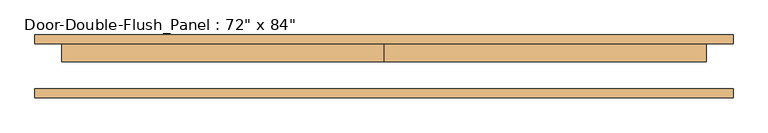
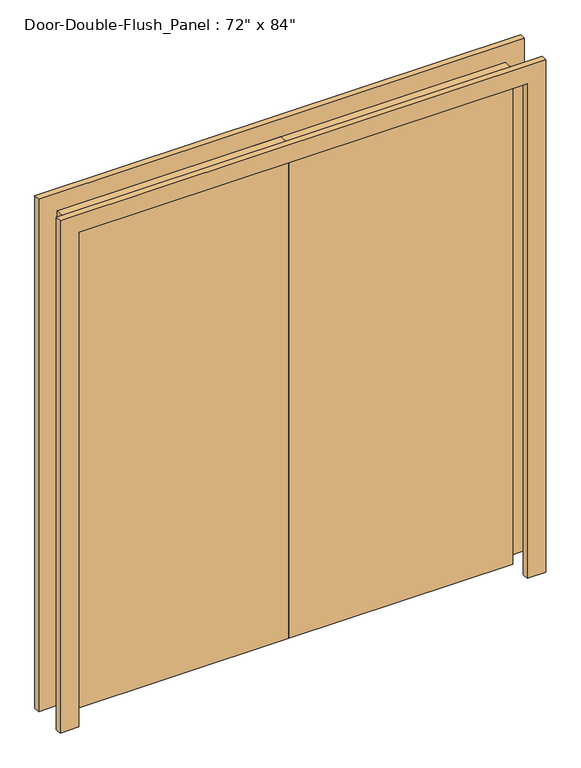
"""IFC4 building model written with IfcOpenShell, lengths in millimetres: door geometry."""

from ifc_helpers import new_model, si_unit, frame, origin, origin_with_axes, place, context, project, spatial, polyline, outline, extrude, source, transform, mapped, element, save


def door_25d5a9ee(model_context):
    return source(origin(), model_context, "Body", "SweptSolid", [
        extrude(outline(polyline([(2133.6, -914.4), (2133.6, 914.4), (0.0, 914.4), (0.0, 990.6), (2209.8, 990.6), (2209.8, -990.6), (0.0, -990.6), (0.0, -914.4), (2133.6, -914.4)])), frame((0.0, -88.9, 0.0), z_axis=(0.0, 1.0, 0.0), x_axis=(0.0, 0.0, 1.0)), (0.0, 0.0, 1.0), 25.4),
        extrude(outline(polyline([(2133.6, -914.4), (2133.6, 914.4), (0.0, 914.4), (0.0, 990.6), (2209.8, 990.6), (2209.8, -990.6), (0.0, -990.6), (0.0, -914.4), (2133.6, -914.4)])), frame((0.0, 63.5, 0.0), z_axis=(0.0, 1.0, 0.0), x_axis=(0.0, 0.0, 1.0)), (0.0, 0.0, 1.0), 25.4),
        extrude(outline(polyline([(0.0, 63.5), (914.4, 63.5), (914.4, 12.7), (0.0, 12.7), (0.0, 63.5)])), origin_with_axes(), (0.0, 0.0, 1.0), 2133.6),
        extrude(outline(polyline([(-914.4, 63.5), (0.0, 63.5), (0.0, 12.7), (-914.4, 12.7), (-914.4, 63.5)])), origin_with_axes(), (0.0, 0.0, 1.0), 2133.6),
    ])


if __name__ == "__main__":
    model = new_model("IFC4")
    model_context = context("Model", 3, world=origin())
    ifc_project = project(units=[si_unit("LENGTHUNIT", "METRE", prefix="MILLI")], contexts=[model_context])
    site = spatial("IfcSite", under=ifc_project)
    building = spatial("IfcBuilding", under=site)
    placement = place(None, origin())
    door_shape = door_25d5a9ee(model_context)
    element("IfcDoor", 1, ObjectType="Door-Double-Flush_Panel : 72\" x 84\"", at=placement, inside=building, context=model_context, shape_type="MappedRepresentation", body=[
        mapped(door_shape, transform((0.0, 0.0, 0.0), x_axis=(1.0, 0.0, 0.0), y_axis=(0.0, 1.0, 0.0), z_axis=(0.0, 0.0, 1.0))),
    ])
    save(model, "model.ifc")
